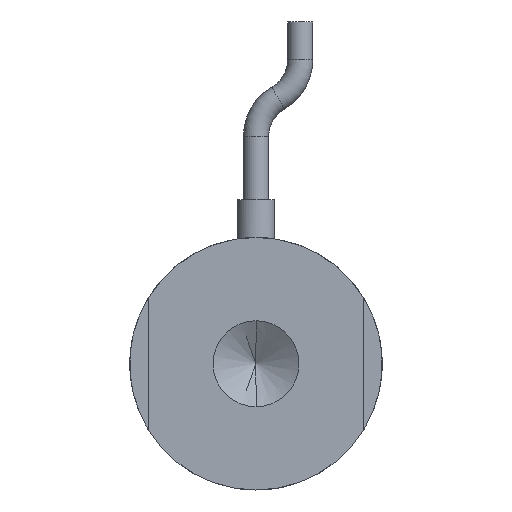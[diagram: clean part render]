
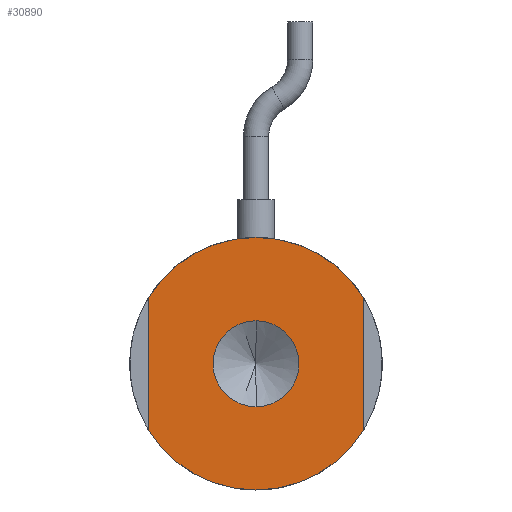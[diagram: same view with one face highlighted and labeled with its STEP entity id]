
A CAD part, front view. The second image highlights one B-rep face of the part: STEP entity #30890.
In plain terms, the highlighted planar face has unit normal (0, -1, 0) by its records, which use the part's own axes.
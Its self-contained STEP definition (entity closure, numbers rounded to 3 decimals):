
#1122 = CARTESIAN_POINT ( 'NONE',  ( 0., 0., 0. ) ) ;
#1199 = DIRECTION ( 'NONE',  ( 0., 0., 1. ) ) ;
#1299 = VECTOR ( 'NONE', #37987, 1000. ) ;
#1720 = FACE_OUTER_BOUND ( 'NONE', #26716, .T. ) ;
#2419 = LINE ( 'NONE', #20252, #1299 ) ;
#3511 = CIRCLE ( 'NONE', #3904, 3.4 ) ;
#3904 = AXIS2_PLACEMENT_3D ( 'NONE', #25836, #4811, #29400 ) ;
#4121 = EDGE_CURVE ( 'NONE', #13554, #7622, #2419, .T. ) ;
#4588 = EDGE_CURVE ( 'NONE', #31692, #7961, #43903, .T. ) ;
#4683 = DIRECTION ( 'NONE',  ( 0., 1., 0. ) ) ;
#4811 = DIRECTION ( 'NONE',  ( 0., -1., 0. ) ) ;
#5063 = CIRCLE ( 'NONE', #37990, 10. ) ;
#5167 = VERTEX_POINT ( 'NONE', #9826 ) ;
#6546 = CIRCLE ( 'NONE', #14456, 10. ) ;
#7368 = AXIS2_PLACEMENT_3D ( 'NONE', #43562, #22233, #1199 ) ;
#7622 = VERTEX_POINT ( 'NONE', #34687 ) ;
#7961 = VERTEX_POINT ( 'NONE', #30116 ) ;
#8029 = VECTOR ( 'NONE', #35086, 1000. ) ;
#8181 = EDGE_CURVE ( 'NONE', #15436, #24733, #17934, .T. ) ;
#8790 = EDGE_CURVE ( 'NONE', #13583, #5167, #39541, .T. ) ;
#9826 = CARTESIAN_POINT ( 'NONE',  ( 0., 0., -3.4 ) ) ;
#10433 = CARTESIAN_POINT ( 'NONE',  ( -8.5, 0., 0. ) ) ;
#13485 = DIRECTION ( 'NONE',  ( 0., -1., 0. ) ) ;
#13554 = VERTEX_POINT ( 'NONE', #28614 ) ;
#13583 = VERTEX_POINT ( 'NONE', #25038 ) ;
#14456 = AXIS2_PLACEMENT_3D ( 'NONE', #15146, #39862, #18630 ) ;
#14601 = ORIENTED_EDGE ( 'NONE', *, *, #4121, .F. ) ;
#14696 = EDGE_CURVE ( 'NONE', #5167, #13583, #3511, .T. ) ;
#15005 = AXIS2_PLACEMENT_3D ( 'NONE', #15901, #40628, #19370 ) ;
#15146 = CARTESIAN_POINT ( 'NONE',  ( 0., 0., 0. ) ) ;
#15388 = DIRECTION ( 'NONE',  ( 0., 1., 0. ) ) ;
#15436 = VERTEX_POINT ( 'NONE', #18346 ) ;
#15901 = CARTESIAN_POINT ( 'NONE',  ( 0., 0., 0. ) ) ;
#16887 = EDGE_LOOP ( 'NONE', ( #26365, #33065 ) ) ;
#17494 = AXIS2_PLACEMENT_3D ( 'NONE', #1122, #4683, #29275 ) ;
#17934 = CIRCLE ( 'NONE', #7368, 10. ) ;
#18346 = CARTESIAN_POINT ( 'NONE',  ( -8.5, 0., 5.268 ) ) ;
#18630 = DIRECTION ( 'NONE',  ( 0., 0., 1. ) ) ;
#19370 = DIRECTION ( 'NONE',  ( 0., 0., 1. ) ) ;
#20252 = CARTESIAN_POINT ( 'NONE',  ( 8.5, 0., 0. ) ) ;
#20676 = ORIENTED_EDGE ( 'NONE', *, *, #30635, .F. ) ;
#22233 = DIRECTION ( 'NONE',  ( 0., 1., 0. ) ) ;
#22917 = AXIS2_PLACEMENT_3D ( 'NONE', #34599, #13485, #38226 ) ;
#24733 = VERTEX_POINT ( 'NONE', #27740 ) ;
#25038 = CARTESIAN_POINT ( 'NONE',  ( 0., 0., 3.4 ) ) ;
#25836 = CARTESIAN_POINT ( 'NONE',  ( 0., 0., 0. ) ) ;
#26365 = ORIENTED_EDGE ( 'NONE', *, *, #14696, .F. ) ;
#26716 = EDGE_LOOP ( 'NONE', ( #40780, #34839, #28244, #14601, #20676, #26842 ) ) ;
#26842 = ORIENTED_EDGE ( 'NONE', *, *, #8181, .F. ) ;
#27740 = CARTESIAN_POINT ( 'NONE',  ( 0., 0., 10. ) ) ;
#28244 = ORIENTED_EDGE ( 'NONE', *, *, #39981, .F. ) ;
#28614 = CARTESIAN_POINT ( 'NONE',  ( 8.5, 0., 5.268 ) ) ;
#29275 = DIRECTION ( 'NONE',  ( 0., 0., 1. ) ) ;
#29400 = DIRECTION ( 'NONE',  ( 0., 0., -1. ) ) ;
#30116 = CARTESIAN_POINT ( 'NONE',  ( -8.5, 0., -5.268 ) ) ;
#30635 = EDGE_CURVE ( 'NONE', #24733, #13554, #5063, .T. ) ;
#30890 = ADVANCED_FACE ( 'NONE', ( #30966, #1720 ), #39891, .F. ) ;
#30966 = FACE_BOUND ( 'NONE', #16887, .T. ) ;
#31692 = VERTEX_POINT ( 'NONE', #40577 ) ;
#33065 = ORIENTED_EDGE ( 'NONE', *, *, #8790, .F. ) ;
#34599 = CARTESIAN_POINT ( 'NONE',  ( 0., 0., 0. ) ) ;
#34687 = CARTESIAN_POINT ( 'NONE',  ( 8.5, 0., -5.268 ) ) ;
#34839 = ORIENTED_EDGE ( 'NONE', *, *, #4588, .F. ) ;
#35086 = DIRECTION ( 'NONE',  ( 0., 0., 1. ) ) ;
#36216 = LINE ( 'NONE', #10433, #8029 ) ;
#36553 = CARTESIAN_POINT ( 'NONE',  ( 0., 0., 0. ) ) ;
#37987 = DIRECTION ( 'NONE',  ( 0., 0., -1. ) ) ;
#37990 = AXIS2_PLACEMENT_3D ( 'NONE', #36553, #15388, #40097 ) ;
#38226 = DIRECTION ( 'NONE',  ( 0., 0., -1. ) ) ;
#39541 = CIRCLE ( 'NONE', #22917, 3.4 ) ;
#39862 = DIRECTION ( 'NONE',  ( 0., 1., 0. ) ) ;
#39891 = PLANE ( 'NONE',  #17494 ) ;
#39981 = EDGE_CURVE ( 'NONE', #7622, #31692, #6546, .T. ) ;
#40097 = DIRECTION ( 'NONE',  ( 0., 0., 1. ) ) ;
#40577 = CARTESIAN_POINT ( 'NONE',  ( 0., 0., -10. ) ) ;
#40628 = DIRECTION ( 'NONE',  ( 0., 1., 0. ) ) ;
#40780 = ORIENTED_EDGE ( 'NONE', *, *, #44945, .F. ) ;
#43562 = CARTESIAN_POINT ( 'NONE',  ( 0., 0., 0. ) ) ;
#43903 = CIRCLE ( 'NONE', #15005, 10. ) ;
#44945 = EDGE_CURVE ( 'NONE', #7961, #15436, #36216, .T. ) ;
